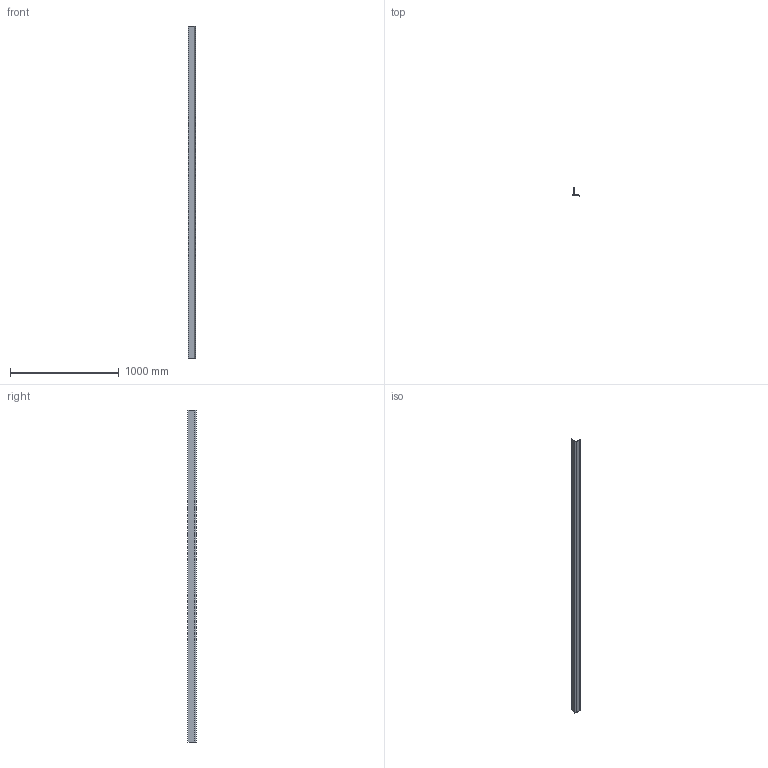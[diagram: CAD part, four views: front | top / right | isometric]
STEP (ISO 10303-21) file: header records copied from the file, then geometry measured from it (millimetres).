
FILE_DESCRIPTION (( 'STEP AP203' ), '1' );
FILE_NAME ('M56F.STEP', '2018-06-18T19:40:41', ( 'Michael Moliner' ), ( '' ), 'SwSTEP 2.0', 'SolidWorks 2018', '' );
FILE_SCHEMA (( 'CONFIG_CONTROL_DESIGN' ));
Length unit declared in the file: inch
Products named in the file (2): M56F
Bounding box: 68.94 x 75.77 x 3048 mm (x, y, z)
Volume: 300261.7 mm3; surface area: 1185426.3 mm2
Topology: 1 solids, 1 shells, 21 faces, 57 edges, 38 vertices
Faces by surface type: plane 14, cylinder 7
Entity records: 822 total; most frequent: CARTESIAN_POINT 118, DIRECTION 117, ORIENTED_EDGE 114, EDGE_CURVE 57, VECTOR 43, LINE 43, VERTEX_POINT 38, AXIS2_PLACEMENT_3D 37
